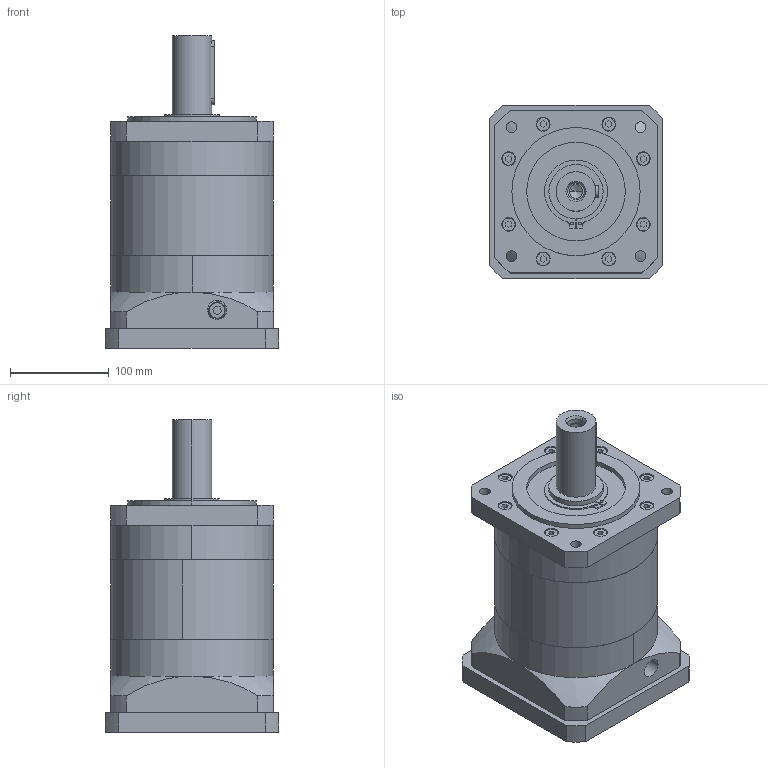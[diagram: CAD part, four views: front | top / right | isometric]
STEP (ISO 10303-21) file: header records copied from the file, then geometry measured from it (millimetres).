
FILE_DESCRIPTION (( 'STEP AP214' ), '1' );
FILE_NAME ('PRF160-L2.STEP', '2020-09-11T02:45:06', ( '微软用户' ), ( '微软中国' ), 'SwSTEP 2.0', 'SolidWorks 2014', '' );
FILE_SCHEMA (( 'AUTOMOTIVE_DESIGN' ));
Length unit declared in the file: millimetre
Products named in the file (16): PLFF160-蟀諉啣_2; PLF160-帣釱; GB／T276-94深沟球轴承6011-2RZ; 邧埴瑩 12x8x65; PLF160 奻屳唳; PLF160 內齿圈_二级内齿圈; GB／T70．1-2000内六角圆柱头螺钉M10×35; PRF160-L2
Assembly tree (8 placements, depth 2):
  PLFF160-蟀諉啣_2
  PLF160-帣釱
  GB／T276-94深沟球轴承6011-2RZ
  邧埴瑩 12x8x65
  PLF160 奻屳唳
Bounding box: 176 x 176 x 317 mm (x, y, z)
Volume: 4873286.1 mm3; surface area: 466643.6 mm2
Topology: 8 solids, 16 shells, 598 faces, 1541 edges, 1002 vertices
Faces by surface type: plane 222, cylinder 216, bspline 140, cone 20
Entity records: 30796 total; most frequent: CARTESIAN_POINT 10465, ORIENTED_EDGE 2978, DIRECTION 2632, EDGE_CURVE 1489, AXIS2_PLACEMENT_3D 1065, VERTEX_POINT 976, EDGE_LOOP 701, CIRCLE 611
